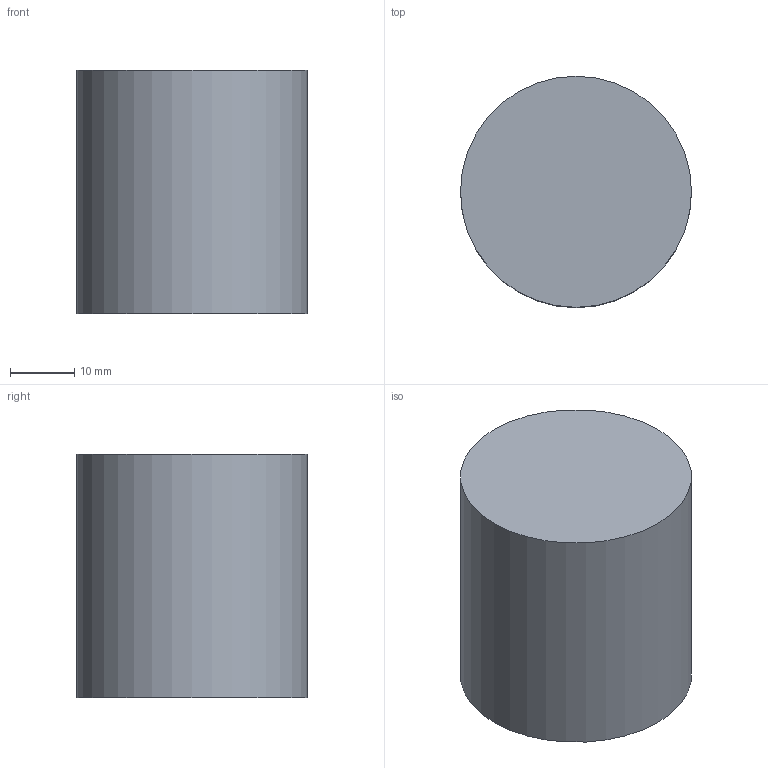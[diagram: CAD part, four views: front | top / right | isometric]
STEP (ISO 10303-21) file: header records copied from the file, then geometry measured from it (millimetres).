
FILE_DESCRIPTION(('Open CASCADE Model'),'2;1');
FILE_NAME('Open CASCADE Shape Model','2026-10-04T01:02:34',('Author'),( 'Open CASCADE'),'Open CASCADE STEP processor 8.0','Open CASCADE 8.0' ,'Unknown');
FILE_SCHEMA(('AUTOMOTIVE_DESIGN { 1 0 10303 214 1 1 1 1 }'));
Length unit declared in the file: millimetre
Products named in the file (1): Open CASCADE STEP translator 8.0 364
Bounding box: 36 x 36 x 38 mm (x, y, z)
Volume: 38679.3 mm3; surface area: 6333.5 mm2
Topology: 1 solids, 1 shells, 3 faces, 3 edges, 2 vertices
Faces by surface type: plane 2, cylinder 1
Full cylindrical faces by diameter (mm): 36 x1
Entity records: 108 total; most frequent: DIRECTION 19, CARTESIAN_POINT 15, AXIS2_PLACEMENT_3D 6, ORIENTED_EDGE 6, PCURVE 6, DEFINITIONAL_REPRESENTATION 6, LINE 5, VECTOR 5
